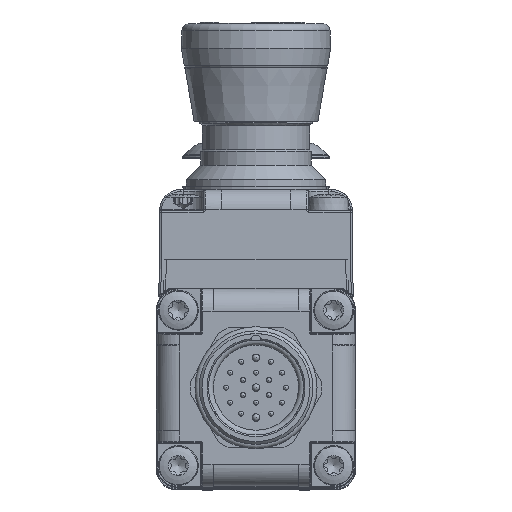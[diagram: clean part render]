
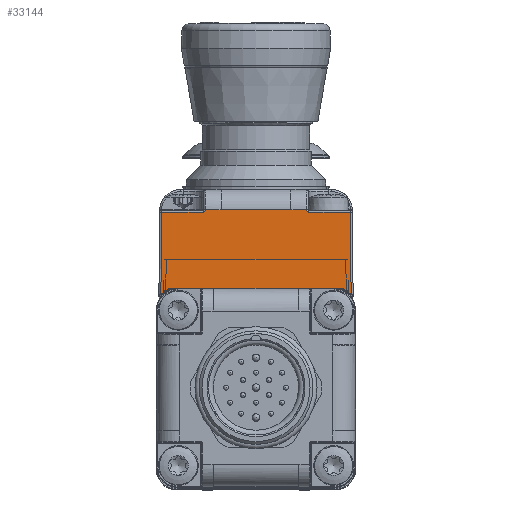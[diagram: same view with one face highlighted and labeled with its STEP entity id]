
A CAD part, top view. The second image highlights one B-rep face of the part: STEP entity #33144.
In plain terms, the highlighted planar face has unit normal (0, 0.009, 1).
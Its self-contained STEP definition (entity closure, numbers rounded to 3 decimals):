
#965=ELLIPSE('',#36611,0.571,0.2);
#966=ELLIPSE('',#36614,0.571,0.2);
#967=ELLIPSE('',#36622,0.5,0.5);
#968=ELLIPSE('',#36624,0.3,0.3);
#969=ELLIPSE('',#36625,4.,4.);
#970=ELLIPSE('',#36626,4.,4.);
#971=ELLIPSE('',#36627,0.3,0.3);
#972=ELLIPSE('',#36629,0.5,0.5);
#1386=PLANE('',#36621);
#3839=FACE_OUTER_BOUND('',#5983,.T.);
#5983=EDGE_LOOP('',(#29366,#29367,#29368,#29369,#29370,#29371,#29372,#29373,
#29374,#29375,#29376,#29377,#29378,#29379,#29380,#29381,#29382,#29383,#29384,
#29385,#29386,#29387));
#9112=CIRCLE('',#36623,0.1);
#9113=CIRCLE('',#36628,0.1);
#10855=LINE('',#71766,#12605);
#10858=LINE('',#71804,#12608);
#10859=LINE('',#71813,#12609);
#10860=LINE('',#71817,#12610);
#10861=LINE('',#71819,#12611);
#10862=LINE('',#71823,#12612);
#10863=LINE('',#71825,#12613);
#10864=LINE('',#71831,#12614);
#10865=LINE('',#71837,#12615);
#10866=LINE('',#71839,#12616);
#10867=LINE('',#71843,#12617);
#10868=LINE('',#71845,#12618);
#12605=VECTOR('',#44897,10.);
#12608=VECTOR('',#44914,10.);
#12609=VECTOR('',#44919,10.);
#12610=VECTOR('',#44922,10.);
#12611=VECTOR('',#44923,10.);
#12612=VECTOR('',#44926,10.);
#12613=VECTOR('',#44927,10.);
#12614=VECTOR('',#44932,10.);
#12615=VECTOR('',#44937,10.);
#12616=VECTOR('',#44938,10.);
#12617=VECTOR('',#44941,10.);
#12618=VECTOR('',#44942,10.);
#15508=VERTEX_POINT('',#71736);
#15509=VERTEX_POINT('',#71737);
#15513=VERTEX_POINT('',#71765);
#15515=VERTEX_POINT('',#71771);
#15517=VERTEX_POINT('',#71803);
#15519=VERTEX_POINT('',#71812);
#15520=VERTEX_POINT('',#71814);
#15521=VERTEX_POINT('',#71816);
#15522=VERTEX_POINT('',#71818);
#15523=VERTEX_POINT('',#71820);
#15524=VERTEX_POINT('',#71822);
#15525=VERTEX_POINT('',#71824);
#15526=VERTEX_POINT('',#71826);
#15527=VERTEX_POINT('',#71828);
#15528=VERTEX_POINT('',#71830);
#15529=VERTEX_POINT('',#71832);
#15530=VERTEX_POINT('',#71834);
#15531=VERTEX_POINT('',#71836);
#15532=VERTEX_POINT('',#71838);
#15533=VERTEX_POINT('',#71840);
#15534=VERTEX_POINT('',#71842);
#15535=VERTEX_POINT('',#71844);
#20213=EDGE_CURVE('',#15508,#15509,#965,.T.);
#20218=EDGE_CURVE('',#15513,#15508,#10855,.T.);
#20223=EDGE_CURVE('',#15515,#15513,#966,.T.);
#20227=EDGE_CURVE('',#15517,#15515,#10858,.T.);
#20230=EDGE_CURVE('',#15509,#15519,#10859,.T.);
#20231=EDGE_CURVE('',#15520,#15519,#967,.T.);
#20232=EDGE_CURVE('',#15521,#15520,#10860,.T.);
#20233=EDGE_CURVE('',#15522,#15521,#10861,.T.);
#20234=EDGE_CURVE('',#15523,#15522,#9112,.T.);
#20235=EDGE_CURVE('',#15524,#15523,#10862,.T.);
#20236=EDGE_CURVE('',#15525,#15524,#10863,.T.);
#20237=EDGE_CURVE('',#15526,#15525,#968,.T.);
#20238=EDGE_CURVE('',#15527,#15526,#969,.T.);
#20239=EDGE_CURVE('',#15528,#15527,#10864,.T.);
#20240=EDGE_CURVE('',#15529,#15528,#970,.T.);
#20241=EDGE_CURVE('',#15530,#15529,#971,.T.);
#20242=EDGE_CURVE('',#15531,#15530,#10865,.T.);
#20243=EDGE_CURVE('',#15532,#15531,#10866,.T.);
#20244=EDGE_CURVE('',#15533,#15532,#9113,.T.);
#20245=EDGE_CURVE('',#15534,#15533,#10867,.T.);
#20246=EDGE_CURVE('',#15535,#15534,#10868,.T.);
#20247=EDGE_CURVE('',#15517,#15535,#972,.T.);
#29366=ORIENTED_EDGE('',*,*,#20223,.T.);
#29367=ORIENTED_EDGE('',*,*,#20218,.T.);
#29368=ORIENTED_EDGE('',*,*,#20213,.T.);
#29369=ORIENTED_EDGE('',*,*,#20230,.T.);
#29370=ORIENTED_EDGE('',*,*,#20231,.F.);
#29371=ORIENTED_EDGE('',*,*,#20232,.F.);
#29372=ORIENTED_EDGE('',*,*,#20233,.F.);
#29373=ORIENTED_EDGE('',*,*,#20234,.F.);
#29374=ORIENTED_EDGE('',*,*,#20235,.F.);
#29375=ORIENTED_EDGE('',*,*,#20236,.F.);
#29376=ORIENTED_EDGE('',*,*,#20237,.F.);
#29377=ORIENTED_EDGE('',*,*,#20238,.F.);
#29378=ORIENTED_EDGE('',*,*,#20239,.F.);
#29379=ORIENTED_EDGE('',*,*,#20240,.F.);
#29380=ORIENTED_EDGE('',*,*,#20241,.F.);
#29381=ORIENTED_EDGE('',*,*,#20242,.F.);
#29382=ORIENTED_EDGE('',*,*,#20243,.F.);
#29383=ORIENTED_EDGE('',*,*,#20244,.F.);
#29384=ORIENTED_EDGE('',*,*,#20245,.F.);
#29385=ORIENTED_EDGE('',*,*,#20246,.F.);
#29386=ORIENTED_EDGE('',*,*,#20247,.F.);
#29387=ORIENTED_EDGE('',*,*,#20227,.T.);
#33144=ADVANCED_FACE('',(#3839),#1386,.T.);
#36611=AXIS2_PLACEMENT_3D('',#71738,#44891,#44892);
#36614=AXIS2_PLACEMENT_3D('',#71792,#44902,#44903);
#36621=AXIS2_PLACEMENT_3D('',#71811,#44917,#44918);
#36622=AXIS2_PLACEMENT_3D('',#71815,#44920,#44921);
#36623=AXIS2_PLACEMENT_3D('',#71821,#44924,#44925);
#36624=AXIS2_PLACEMENT_3D('',#71827,#44928,#44929);
#36625=AXIS2_PLACEMENT_3D('',#71829,#44930,#44931);
#36626=AXIS2_PLACEMENT_3D('',#71833,#44933,#44934);
#36627=AXIS2_PLACEMENT_3D('',#71835,#44935,#44936);
#36628=AXIS2_PLACEMENT_3D('',#71841,#44939,#44940);
#36629=AXIS2_PLACEMENT_3D('',#71846,#44943,#44944);
#44891=DIRECTION('center_axis',(0.,-0.009,
-1.));
#44892=DIRECTION('ref_axis',(0.,-1.,0.009));
#44897=DIRECTION('',(-1.,0.,0.));
#44902=DIRECTION('center_axis',(0.,-0.009,
-1.));
#44903=DIRECTION('ref_axis',(0.,-1.,0.009));
#44914=DIRECTION('',(-1.,0.,0.));
#44917=DIRECTION('center_axis',(0.,0.009,
1.));
#44918=DIRECTION('ref_axis',(1.,0.,0.));
#44919=DIRECTION('',(-1.,0.,0.));
#44920=DIRECTION('center_axis',(0.,0.009,
1.));
#44921=DIRECTION('ref_axis',(0.,-1.,0.009));
#44922=DIRECTION('',(1.,0.,0.));
#44923=DIRECTION('',(0.009,1.,-0.009));
#44924=DIRECTION('center_axis',(0.,-0.009,
-1.));
#44925=DIRECTION('ref_axis',(0.,-1.,0.009));
#44926=DIRECTION('',(-1.,0.,0.));
#44927=DIRECTION('',(0.,-1.,0.009));
#44928=DIRECTION('center_axis',(0.,0.009,
1.));
#44929=DIRECTION('ref_axis',(0.,1.,-0.009));
#44930=DIRECTION('center_axis',(0.,0.009,
1.));
#44931=DIRECTION('ref_axis',(0.,1.,-0.009));
#44932=DIRECTION('',(-1.,0.,0.));
#44933=DIRECTION('center_axis',(0.,0.009,
1.));
#44934=DIRECTION('ref_axis',(0.,1.,-0.009));
#44935=DIRECTION('center_axis',(0.,0.009,
1.));
#44936=DIRECTION('ref_axis',(0.,1.,-0.009));
#44937=DIRECTION('',(0.,1.,-0.009));
#44938=DIRECTION('',(-1.,0.,0.));
#44939=DIRECTION('center_axis',(0.,-0.009,
-1.));
#44940=DIRECTION('ref_axis',(0.,-1.,0.009));
#44941=DIRECTION('',(0.009,-1.,0.009));
#44942=DIRECTION('',(1.,0.,0.));
#44943=DIRECTION('center_axis',(0.,0.009,
1.));
#44944=DIRECTION('ref_axis',(0.,-1.,0.009));
#71736=CARTESIAN_POINT('',(-6.8,35.735,238.776));
#71737=CARTESIAN_POINT('',(-6.812,35.736,238.776));
#71738=CARTESIAN_POINT('Origin',(-6.8,36.306,238.771));
#71765=CARTESIAN_POINT('',(6.8,35.735,238.776));
#71766=CARTESIAN_POINT('',(-9.75,35.735,238.776));
#71771=CARTESIAN_POINT('',(6.812,35.736,238.776));
#71792=CARTESIAN_POINT('Origin',(6.8,36.306,238.771));
#71803=CARTESIAN_POINT('',(10.105,35.736,238.776));
#71804=CARTESIAN_POINT('',(-9.75,35.736,238.776));
#71811=CARTESIAN_POINT('Origin',(-19.5,25.75,238.864));
#71812=CARTESIAN_POINT('',(-10.105,35.736,238.776));
#71813=CARTESIAN_POINT('',(-9.75,35.736,238.776));
#71814=CARTESIAN_POINT('',(-10.6,35.303,238.78));
#71815=CARTESIAN_POINT('Origin',(-10.6,35.803,238.776));
#71816=CARTESIAN_POINT('',(-18.951,35.303,238.78));
#71817=CARTESIAN_POINT('',(-17.05,35.303,238.78));
#71818=CARTESIAN_POINT('',(-19.096,18.754,238.925));
#71819=CARTESIAN_POINT('',(-19.026,26.727,238.855));
#71820=CARTESIAN_POINT('',(-18.996,18.653,238.926));
#71821=CARTESIAN_POINT('Origin',(-18.996,18.753,238.925));
#71822=CARTESIAN_POINT('',(-18.9,18.653,238.926));
#71823=CARTESIAN_POINT('',(-19.15,18.653,238.926));
#71824=CARTESIAN_POINT('',(-18.9,18.833,238.924));
#71825=CARTESIAN_POINT('',(-18.9,22.823,238.889));
#71826=CARTESIAN_POINT('',(-18.811,19.047,238.922));
#71827=CARTESIAN_POINT('Origin',(-18.6,18.833,238.924));
#71828=CARTESIAN_POINT('',(-17.085,20.051,238.913));
#71829=CARTESIAN_POINT('Origin',(-16.,16.201,238.947));
#71830=CARTESIAN_POINT('',(17.085,20.051,238.913));
#71831=CARTESIAN_POINT('',(-1.214,20.051,238.913));
#71832=CARTESIAN_POINT('',(18.811,19.047,238.922));
#71833=CARTESIAN_POINT('Origin',(16.,16.201,238.947));
#71834=CARTESIAN_POINT('',(18.9,18.833,238.924));
#71835=CARTESIAN_POINT('Origin',(18.6,18.833,238.924));
#71836=CARTESIAN_POINT('',(18.9,18.653,238.926));
#71837=CARTESIAN_POINT('',(18.9,22.491,238.892));
#71838=CARTESIAN_POINT('',(18.996,18.653,238.926));
#71839=CARTESIAN_POINT('',(0.,18.653,238.926));
#71840=CARTESIAN_POINT('',(19.096,18.754,238.925));
#71841=CARTESIAN_POINT('Origin',(18.996,18.753,238.925));
#71842=CARTESIAN_POINT('',(18.951,35.303,238.78));
#71843=CARTESIAN_POINT('',(19.033,25.916,238.862));
#71844=CARTESIAN_POINT('',(10.6,35.303,238.78));
#71845=CARTESIAN_POINT('',(-2.45,35.303,238.78));
#71846=CARTESIAN_POINT('Origin',(10.6,35.803,238.776));
